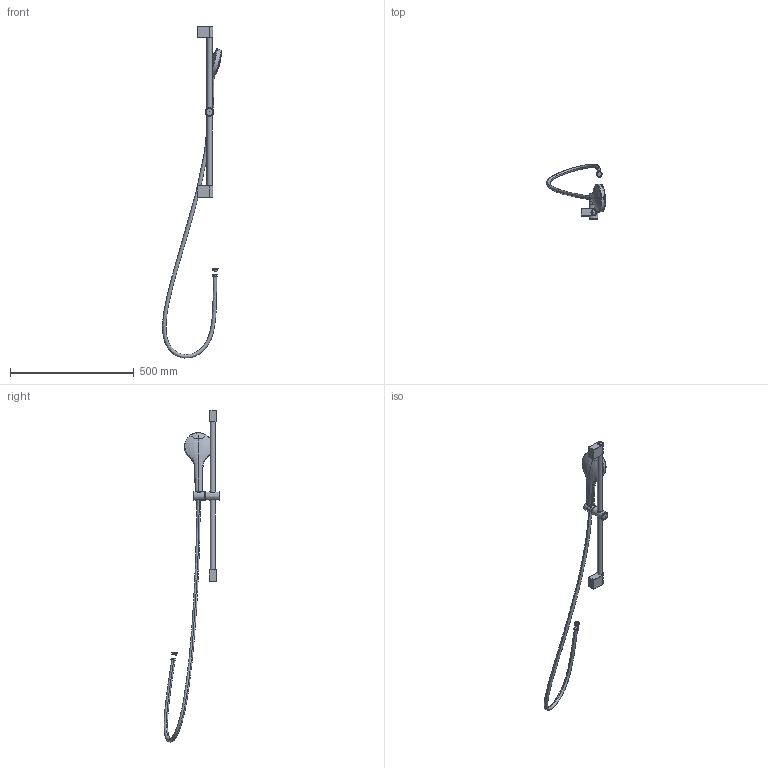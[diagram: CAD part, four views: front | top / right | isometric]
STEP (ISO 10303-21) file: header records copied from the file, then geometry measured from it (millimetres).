
FILE_DESCRIPTION(/* description */ (''),/* implementation_level */ '2;1');
FILE_NAME(/* name */ 'TVS10860003.step',/* time_stamp */ '2023-01-18T17:33:50+01:00',/* author */ (''),/* organization */ (''),/* preprocessor_version */ 'ST-DEVELOPER v19.2',/* originating_system */ 'Autodesk Translation Framework v11.17.0.187',/* authorisation */ '');
FILE_SCHEMA (('AUTOMOTIVE_DESIGN { 1 0 10303 214 3 1 1 }'));
Products named in the file (18): (Nicht gespeichert); M51521-004; M51520-001_ASM; M51520-002_AF0; M51340-004_AF0; M51340-003_AF0; M51520-003_AF0; P83402_ASM; P83402-001_AF0; P83402-002_AF0; P83402-003_AF0; P84302-020_AF0_ASM; P83402-011_AF0; P83402-005_AF0_ASM; P83402-004_AF0; P83402-005_AF1; H21304; Komponente17
Assembly tree (18 placements, depth 4):
  (Nicht gespeichert)
    M51521-004
    M51520-001_ASM
      M51520-002_AF0
      M51340-004_AF0
      M51340-003_AF0
      M51520-003_AF0
    P83402_ASM
      P83402-001_AF0
      P83402-002_AF0
      P83402-003_AF0
      P84302-020_AF0_ASM
        P83402-011_AF0
      P83402-005_AF0_ASM
        P83402-004_AF0
        P83402-005_AF1
    H21304
    Komponente17  x2
Bounding box: 237.61 x 225.58 x 1341.02 mm (x, y, z)
Volume: 309085.5 mm3; surface area: 273501 mm2
Topology: 75 solids, 79 shells, 1885 faces, 4714 edges, 3060 vertices
Faces by surface type: bspline 753, cone 500, plane 356, torus 116, sphere 82, cylinder 78
Full cylindrical faces by diameter (mm): 4.13 x1, 19 x2, 19.6 x1, 20.5 x2, 20.6 x1, 21 x2, 23 x2, 23.2 x2, 29 x1, 30.385 x2, 34 x1
Entity records: 260797 total; most frequent: CARTESIAN_POINT 220767, ORIENTED_EDGE 9061, DIRECTION 6529, EDGE_CURVE 4640, VERTEX_POINT 3020, AXIS2_PLACEMENT_3D 2754, EDGE_LOOP 2319, B_SPLINE_CURVE_WITH_KNOTS 1964
